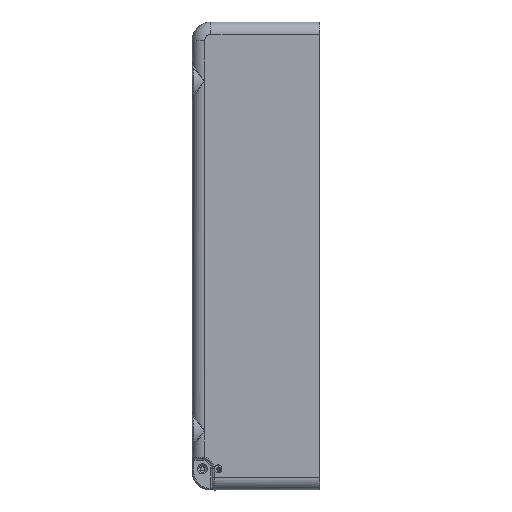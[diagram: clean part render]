
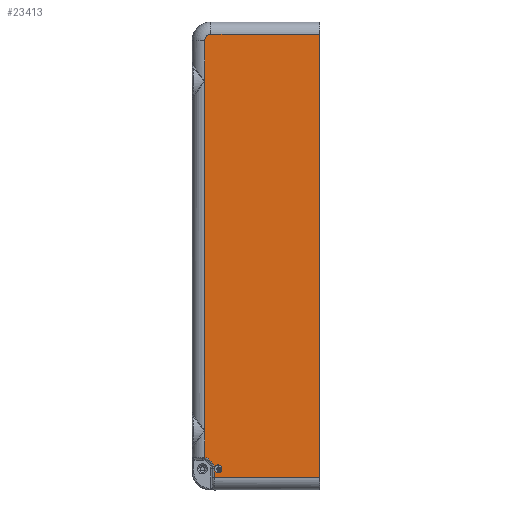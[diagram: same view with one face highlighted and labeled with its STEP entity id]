
A CAD part, left-side view. The second image highlights one B-rep face of the part: STEP entity #23413.
In plain terms, the highlighted planar face has unit normal (-1, 0, 0).
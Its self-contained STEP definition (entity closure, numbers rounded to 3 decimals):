
#318 = CARTESIAN_POINT ( 'NONE',  ( -6.35, 16.45, -64.567 ) ) ;
#885 = ORIENTED_EDGE ( 'NONE', *, *, #4132, .F. ) ;
#1725 = VERTEX_POINT ( 'NONE', #24098 ) ;
#1795 = CARTESIAN_POINT ( 'NONE',  ( -6.35, 14.45, 71. ) ) ;
#1817 = VECTOR ( 'NONE', #12233, 1000. ) ;
#2523 = DIRECTION ( 'NONE',  ( 0., 0., -1. ) ) ;
#3132 = LINE ( 'NONE', #14612, #13852 ) ;
#3221 = AXIS2_PLACEMENT_3D ( 'NONE', #8332, #22495, #10342 ) ;
#3617 = LINE ( 'NONE', #16142, #24466 ) ;
#4048 = DIRECTION ( 'NONE',  ( 0., 0., -1. ) ) ;
#4063 = CARTESIAN_POINT ( 'NONE',  ( -6.35, -20.45, 71. ) ) ;
#4132 = EDGE_CURVE ( 'NONE', #1725, #1725, #24099, .T. ) ;
#4160 = CIRCLE ( 'NONE', #10029, 2. ) ;
#4595 = ORIENTED_EDGE ( 'NONE', *, *, #22359, .T. ) ;
#4640 = EDGE_CURVE ( 'NONE', #23588, #6349, #14566, .T. ) ;
#4910 = CARTESIAN_POINT ( 'NONE',  ( -6.35, -20.45, 75. ) ) ;
#5355 = EDGE_LOOP ( 'NONE', ( #885 ) ) ;
#6169 = ORIENTED_EDGE ( 'NONE', *, *, #4640, .F. ) ;
#6324 = DIRECTION ( 'NONE',  ( 0., 0., -1. ) ) ;
#6349 = VERTEX_POINT ( 'NONE', #19807 ) ;
#6379 = CARTESIAN_POINT ( 'NONE',  ( -6.35, 14.45, 69. ) ) ;
#6544 = VERTEX_POINT ( 'NONE', #22465 ) ;
#7388 = DIRECTION ( 'NONE',  ( 1., 0., 0. ) ) ;
#7966 = VERTEX_POINT ( 'NONE', #11843 ) ;
#8332 = CARTESIAN_POINT ( 'NONE',  ( -6.35, 17.15, -68.2 ) ) ;
#8380 = DIRECTION ( 'NONE',  ( 0., 1., 0. ) ) ;
#8650 = VERTEX_POINT ( 'NONE', #1795 ) ;
#8768 = AXIS2_PLACEMENT_3D ( 'NONE', #19505, #7388, #21523 ) ;
#8819 = EDGE_CURVE ( 'NONE', #12704, #6349, #18890, .T. ) ;
#9184 = VECTOR ( 'NONE', #18942, 1000. ) ;
#9357 = VECTOR ( 'NONE', #23099, 1000. ) ;
#9642 = ORIENTED_EDGE ( 'NONE', *, *, #17093, .T. ) ;
#10029 = AXIS2_PLACEMENT_3D ( 'NONE', #6379, #20522, #8380 ) ;
#10342 = DIRECTION ( 'NONE',  ( 0., 1., 0. ) ) ;
#10665 = DIRECTION ( 'NONE',  ( 0., -1., 0. ) ) ;
#11186 = CARTESIAN_POINT ( 'NONE',  ( -6.35, 12.15, -68.2 ) ) ;
#11365 = PLANE ( 'NONE',  #8768 ) ;
#11408 = LINE ( 'NONE', #18392, #22185 ) ;
#11828 = CARTESIAN_POINT ( 'NONE',  ( -6.35, 13.45, -68.2 ) ) ;
#11843 = CARTESIAN_POINT ( 'NONE',  ( -6.35, 16.45, -56. ) ) ;
#12233 = DIRECTION ( 'NONE',  ( 0., 1., 0. ) ) ;
#12704 = VERTEX_POINT ( 'NONE', #24552 ) ;
#12993 = EDGE_CURVE ( 'NONE', #7966, #19366, #3617, .T. ) ;
#13240 = DIRECTION ( 'NONE',  ( 0., -1., 0. ) ) ;
#13458 = ORIENTED_EDGE ( 'NONE', *, *, #17921, .T. ) ;
#13461 = CARTESIAN_POINT ( 'NONE',  ( -6.35, 16.45, 56. ) ) ;
#13556 = ORIENTED_EDGE ( 'NONE', *, *, #15533, .T. ) ;
#13852 = VECTOR ( 'NONE', #2523, 1000. ) ;
#14315 = FACE_OUTER_BOUND ( 'NONE', #24885, .T. ) ;
#14566 = LINE ( 'NONE', #4910, #9184 ) ;
#14612 = CARTESIAN_POINT ( 'NONE',  ( -6.35, 16.45, 75. ) ) ;
#14757 = LINE ( 'NONE', #14959, #9357 ) ;
#14959 = CARTESIAN_POINT ( 'NONE',  ( -6.35, 13.45, 75. ) ) ;
#15533 = EDGE_CURVE ( 'NONE', #19366, #15905, #17616, .T. ) ;
#15905 = VERTEX_POINT ( 'NONE', #11828 ) ;
#16142 = CARTESIAN_POINT ( 'NONE',  ( -6.35, 16.45, 75. ) ) ;
#16284 = ORIENTED_EDGE ( 'NONE', *, *, #8819, .T. ) ;
#16395 = AXIS2_PLACEMENT_3D ( 'NONE', #11186, #25362, #13240 ) ;
#17093 = EDGE_CURVE ( 'NONE', #6544, #25013, #11408, .T. ) ;
#17293 = LINE ( 'NONE', #24355, #1817 ) ;
#17616 = CIRCLE ( 'NONE', #3221, 3.7 ) ;
#17921 = EDGE_CURVE ( 'NONE', #25013, #7966, #3132, .T. ) ;
#18255 = VECTOR ( 'NONE', #10665, 1000. ) ;
#18329 = ORIENTED_EDGE ( 'NONE', *, *, #12993, .T. ) ;
#18392 = CARTESIAN_POINT ( 'NONE',  ( -6.35, 16.45, 75. ) ) ;
#18890 = LINE ( 'NONE', #22805, #18255 ) ;
#18942 = DIRECTION ( 'NONE',  ( 0., 0., -1. ) ) ;
#19366 = VERTEX_POINT ( 'NONE', #318 ) ;
#19505 = CARTESIAN_POINT ( 'NONE',  ( -6.35, 20.45, 75. ) ) ;
#19807 = CARTESIAN_POINT ( 'NONE',  ( -6.35, -20.45, -71. ) ) ;
#20319 = FACE_BOUND ( 'NONE', #5355, .T. ) ;
#20522 = DIRECTION ( 'NONE',  ( -1., 0., 0. ) ) ;
#21223 = EDGE_CURVE ( 'NONE', #8650, #6544, #4160, .T. ) ;
#21523 = DIRECTION ( 'NONE',  ( 0., 1., 0. ) ) ;
#22185 = VECTOR ( 'NONE', #6324, 1000. ) ;
#22359 = EDGE_CURVE ( 'NONE', #23588, #8650, #17293, .T. ) ;
#22454 = EDGE_CURVE ( 'NONE', #15905, #12704, #14757, .T. ) ;
#22465 = CARTESIAN_POINT ( 'NONE',  ( -6.35, 16.45, 69. ) ) ;
#22495 = DIRECTION ( 'NONE',  ( 1., 0., 0. ) ) ;
#22805 = CARTESIAN_POINT ( 'NONE',  ( -6.35, 20.45, -71. ) ) ;
#22973 = ORIENTED_EDGE ( 'NONE', *, *, #21223, .T. ) ;
#23099 = DIRECTION ( 'NONE',  ( 0., 0., -1. ) ) ;
#23413 = ADVANCED_FACE ( 'NONE', ( #20319, #14315 ), #11365, .F. ) ;
#23588 = VERTEX_POINT ( 'NONE', #4063 ) ;
#24098 = CARTESIAN_POINT ( 'NONE',  ( -6.35, 10.9, -68.2 ) ) ;
#24099 = CIRCLE ( 'NONE', #16395, 1.25 ) ;
#24355 = CARTESIAN_POINT ( 'NONE',  ( -6.35, 14.45, 71. ) ) ;
#24466 = VECTOR ( 'NONE', #4048, 1000. ) ;
#24552 = CARTESIAN_POINT ( 'NONE',  ( -6.35, 13.45, -71. ) ) ;
#24885 = EDGE_LOOP ( 'NONE', ( #13556, #25463, #16284, #6169, #4595, #22973, #9642, #13458, #18329 ) ) ;
#25013 = VERTEX_POINT ( 'NONE', #13461 ) ;
#25362 = DIRECTION ( 'NONE',  ( -1., 0., 0. ) ) ;
#25463 = ORIENTED_EDGE ( 'NONE', *, *, #22454, .T. ) ;
